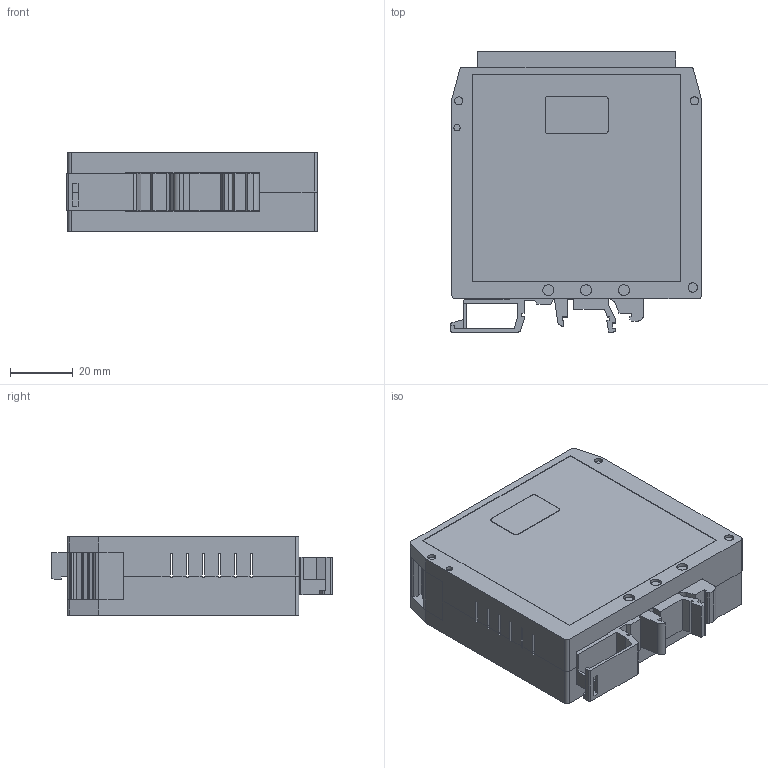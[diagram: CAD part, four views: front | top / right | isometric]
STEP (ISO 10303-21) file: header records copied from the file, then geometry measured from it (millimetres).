
FILE_DESCRIPTION(('SolidDesigner STEP Export'),'2;1');
FILE_NAME('UEGM-MSTB_KPL_H.Select__00540797.stp','2011-03-02T 7:45:10',(''),(''),'CoCreate Modeling STEP processor for AP214 (Solid Model)','CoCreate Modeling 16.00A 16-Aug-2008 (C) Parametric Technology GmbH','');
FILE_SCHEMA(('AUTOMOTIVE_DESIGN { 1 0 10303 214 1 1 1 1 }'));
Length unit declared in the file: millimetre
Products named in the file (7): UEG-FE_Fusselement_H.Select_00446547; UEGM-MSTB_H.Select__00520238; UEGM_MSTB_PCB_H.Select_00540627; UEGM-SE_5-SO1_H.Select__00540220; UEGM-SE_5_ohne-Steg_H.Select__00540227; MSTBA_2_5-12-G-5_08_KPL_H.Select__00540392; UEGM-MSTB_KPL_H.Select__00540797
Assembly tree (6 placements, depth 2):
  UEGM-MSTB_KPL_H.Select__00540797
    MSTBA_2_5-12-G-5_08_KPL_H.Select__00540392
    UEGM-SE_5_ohne-Steg_H.Select__00540227
    UEGM-SE_5-SO1_H.Select__00540220
    UEGM_MSTB_PCB_H.Select_00540627
    UEGM-MSTB_H.Select__00520238
    UEG-FE_Fusselement_H.Select_00446547
Bounding box: 79.6 x 89.04 x 24.94 mm (x, y, z)
Volume: 52893.5 mm3; surface area: 64545.9 mm2
Topology: 6 solids, 6 shells, 2005 faces, 5480 edges, 3624 vertices
Faces by surface type: plane 1520, cylinder 413, sphere 48, cone 24
Entity records: 73028 total; most frequent: ORIENTED_EDGE 10960, CARTESIAN_POINT 10720, DIRECTION 9127, EDGE_CURVE 5480, VECTOR 4441, LINE 4441, VERTEX_POINT 3624, AXIS2_PLACEMENT_3D 2343
